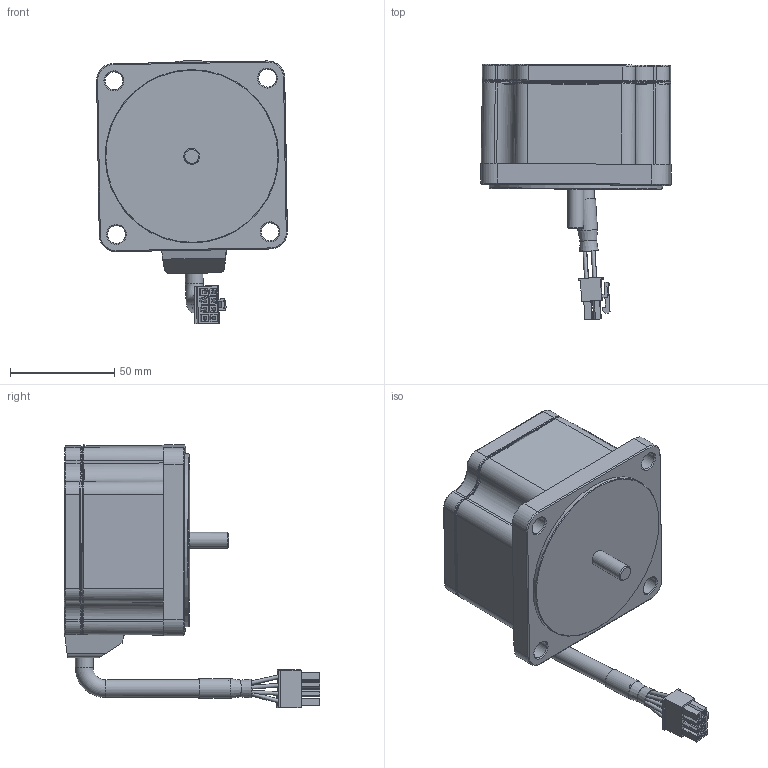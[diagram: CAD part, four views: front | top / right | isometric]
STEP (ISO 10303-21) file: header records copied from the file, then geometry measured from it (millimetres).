
FILE_DESCRIPTION((''),'2;1');
FILE_NAME('C:\Users\AHN\Desktop\BLDC 홈페이지용\K9XH100N2.stp','2020-08-20T17:10:25',('AHN'),(''),'Autodesk Inventor 2009','Autodesk Inventor 2009','');
FILE_SCHEMA(('AUTOMOTIVE_DESIGN { 1 0 10303 214 1 1 1 1 }'));
Length unit declared in the file: millimetre
Products named in the file (13): K9LH100N2; 부품35_1_1; 부품35_2_2; 부품35_3_1; 부품35_4_1; 부품35_5_1; 부품35_6_1; 부품35_7_1; 부품35_8; x타입 케이블; 부품35_1; 부품35_2; 하우징
Assembly tree (12 placements, depth 3):
  K9LH100N2
    부품35_1_1
    부품35_2_2
    부품35_3_1
    부품35_4_1
    부품35_5_1
    부품35_6_1
    부품35_7_1
    부품35_8
    x타입 케이블
      부품35_1
      부품35_2
      하우징
Bounding box: 91.31 x 122.32 x 126.21 mm (x, y, z)
Volume: 441099.2 mm3; surface area: 57180.9 mm2
Topology: 5 solids, 5 shells, 531 faces, 1395 edges, 884 vertices
Faces by surface type: plane 386, cylinder 77, cone 27, bspline 24, torus 17
Full cylindrical faces by diameter (mm): 1.75 x10, 7.6 x1, 8.5 x6, 9 x1, 9.4 x1, 12 x1, 83 x1, 86.5 x1
Entity records: 18443 total; most frequent: CARTESIAN_POINT 5197, ORIENTED_EDGE 2690, DIRECTION 2592, EDGE_CURVE 1345, VECTOR 1086, LINE 1086, VERTEX_POINT 875, AXIS2_PLACEMENT_3D 753
